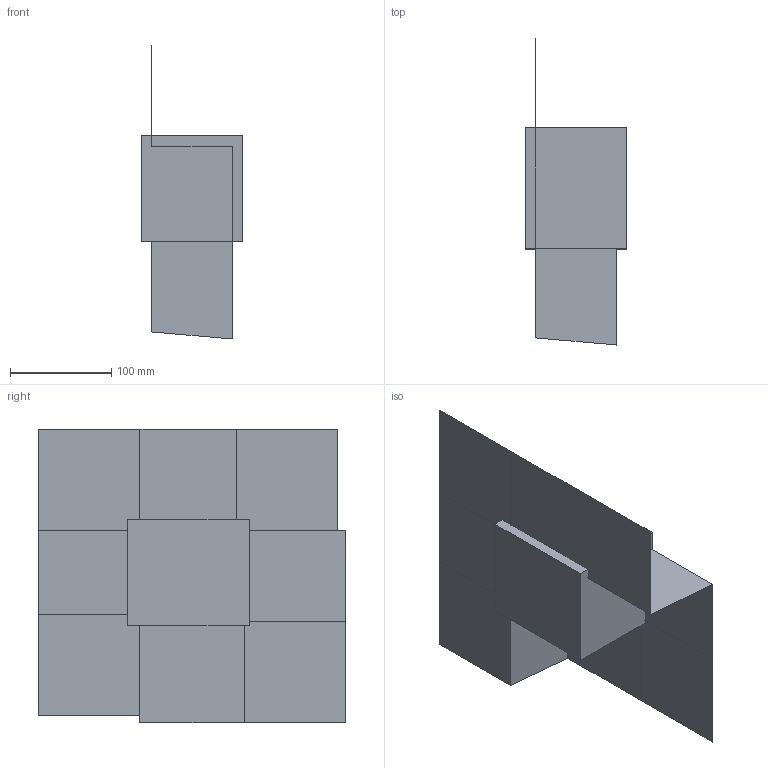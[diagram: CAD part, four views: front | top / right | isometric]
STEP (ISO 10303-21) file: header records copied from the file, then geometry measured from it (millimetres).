
FILE_DESCRIPTION(('CATIA V5 STEP Exchange'),'2;1');
FILE_NAME('C:\_Andres\UNIVERSIDAD\IQS\ASIGNATURAS\DAO\EXF\EXF-15161c\1original\Giménez_Álvarez-Sarandés_Ej02-moldes_v10.stp','2016-03-04T15:45:36+00:00',('none'),('none'),'CATIA Version 5 Release 20 SP 1 (IN-10)','CATIA V5 STEP AP203','none');
FILE_SCHEMA(('CONFIG_CONTROL_DESIGN'));
Length unit declared in the file: millimetre
Products named in the file (1): Giménez_Álvarez-Sarandés_Ej02-moldes_v10
Bounding box: 100 x 303 x 291 mm (x, y, z)
Volume: 2676074 mm3; surface area: 328313.3 mm2
Topology: 3 solids, 7 shells, 45 faces, 118 edges, 83 vertices
Faces by surface type: plane 41, cylinder 4
Entity records: 1101 total; most frequent: ORIENTED_EDGE 198, CARTESIAN_POINT 179, DIRECTION 147, EDGE_CURVE 83, VECTOR 73, LINE 73, VERTEX_POINT 56, EDGE_LOOP 49
